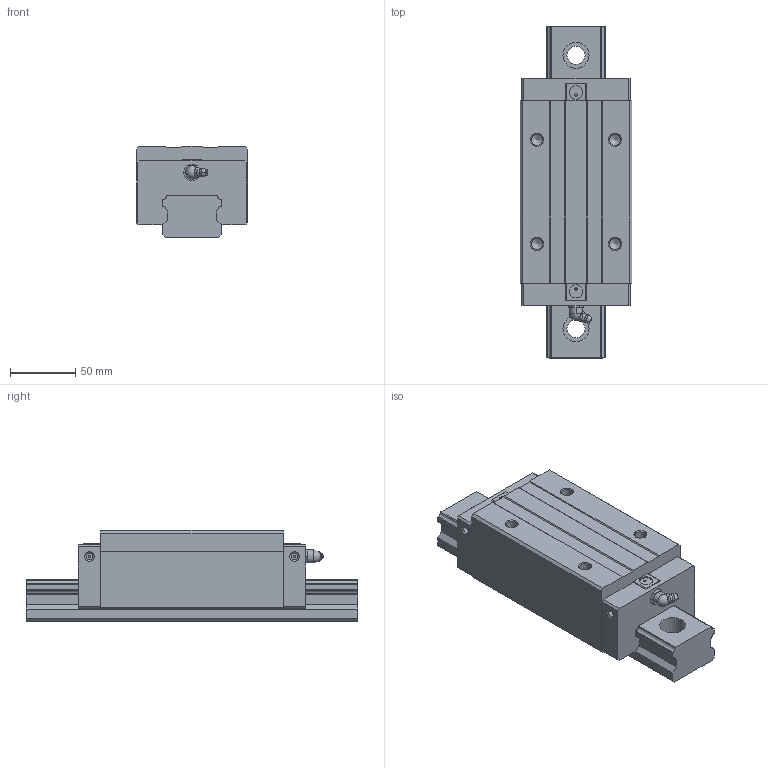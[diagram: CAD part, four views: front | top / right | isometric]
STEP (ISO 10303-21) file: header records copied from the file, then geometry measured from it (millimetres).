
FILE_DESCRIPTION(/* description */ (''),/* implementation_level */ '2;1');
FILE_NAME(/* name */ 'SME45-LSA',/* time_stamp */ '2008-10-06T10:39:45+08:00',/* author */ (''),/* organization */ (''),/* preprocessor_version */ 'ST-DEVELOPER v11',/* originating_system */ 'UGS - NX 5.0',/* authorisation */ '');
FILE_SCHEMA (('AUTOMOTIVE_DESIGN { 1 0 10303 214 1 1 1 1 }'));
Length unit declared in the file: millimetre
Products named in the file (1): jillBD1Calpe
Bounding box: 86 x 255 x 70 mm (x, y, z)
Volume: 1015638.6 mm3; surface area: 116494.5 mm2
Topology: 3 solids, 3 shells, 186 faces, 463 edges, 301 vertices
Faces by surface type: plane 110, cylinder 48, cone 14, torus 10, bspline 2, sphere 2
Full cylindrical faces by diameter (mm): 2 x6, 5.2 x4, 8.5 x4, 10.2 x4, 13 x2, 14 x3, 20 x3
Entity records: 5676 total; most frequent: CARTESIAN_POINT 1081, DIRECTION 888, ORIENTED_EDGE 822, EDGE_CURVE 411, AXIS2_PLACEMENT_3D 316, VERTEX_POINT 293, LINE 256, VECTOR 256
